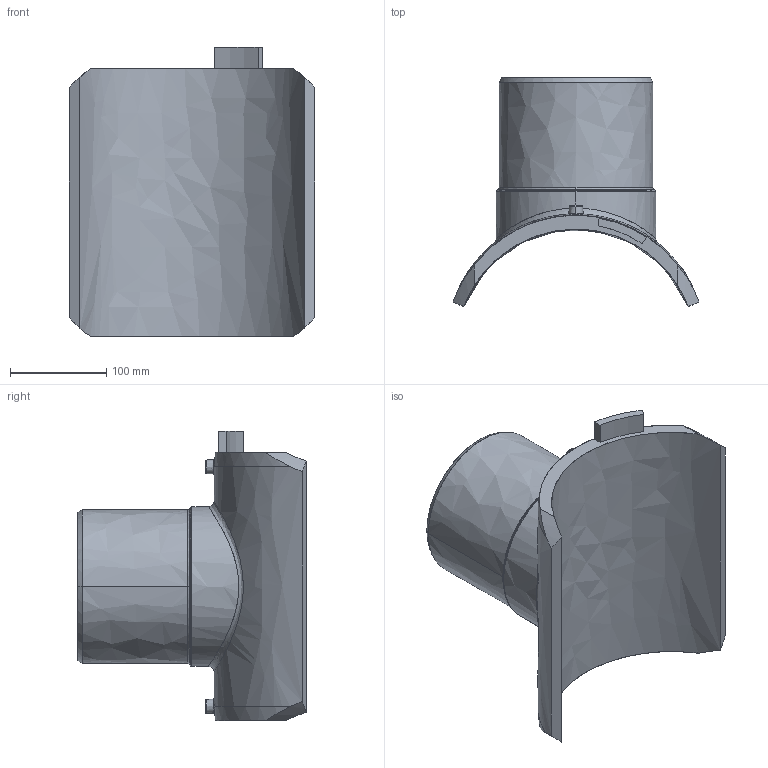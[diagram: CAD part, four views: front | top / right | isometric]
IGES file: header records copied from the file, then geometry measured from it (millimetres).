
Start section:  PTC IGES file: sa-uni_d250_160_01.igs
Global section: file name: sa-uni_d250_160_01.igs; native system: Pro/ENGINEER by Parametric Technology Corporation; preprocessor: 2011490; author: MikulicP; organization: Unknown; date: 20170202.143824; units: millimetre
Bounding box: 255.71 x 237.99 x 301 mm (x, y, z)
Surface area: 342150.6 mm2 (no closed solid volume)
Topology: 0 solids, 0 shells, 206 faces, 1018 edges, 1016 vertices
Faces by surface type: bspline 206
